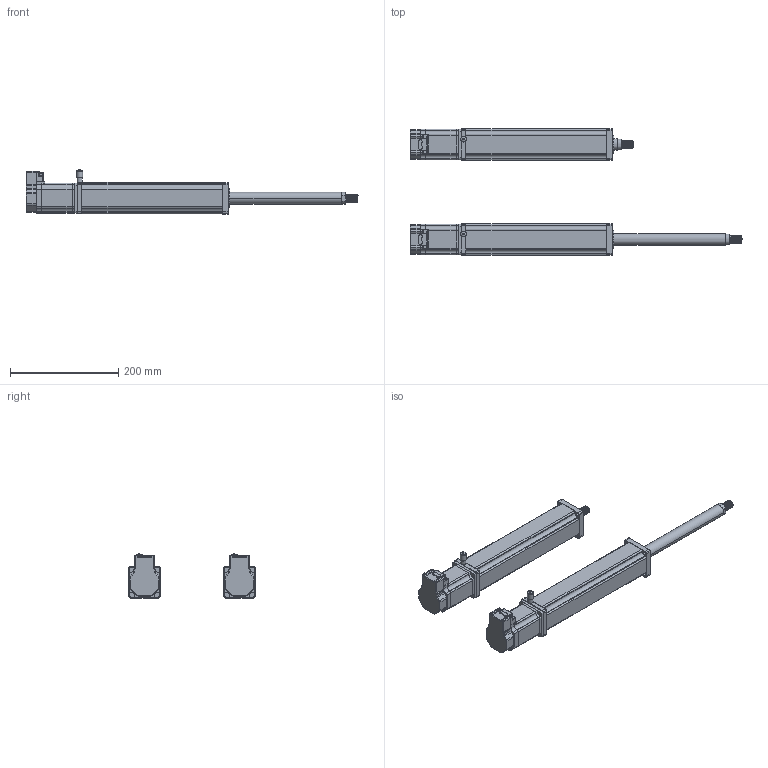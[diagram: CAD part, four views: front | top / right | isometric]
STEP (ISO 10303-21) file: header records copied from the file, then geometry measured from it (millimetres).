
FILE_DESCRIPTION(('FreeCAD Model'),'2;1');
FILE_NAME('Open CASCADE Shape Model','2023-08-04T13:29:37',('Author'),( ''),'Open CASCADE STEP processor 7.5','FreeCAD','Unknown');
FILE_SCHEMA(('AUTOMOTIVE_DESIGN { 1 0 10303 214 1 1 1 1 }'));
Length unit declared in the file: millimetre
Products named in the file (47): Unnamed; Shapes; Shapes001; Shapes002; Shapes003; Shapes004; Shapes005; Shapes006; Shapes007; Shapes008; Shapes009; Shapes010; Shapes011; Shapes012; Shapes013; Shapes014; Shapes015; Shapes016; Shapes017; Shapes018; Shapes019; Shapes020; Shapes021; Shapes022; Shapes023; Shapes024; Shapes025; Shapes026; Shapes027; Shapes028; Shapes029; Shapes030; Shapes031; Shapes032; Shapes033; Shapes034; Shapes035; Shapes036; Shapes037; Shapes038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
Assembly tree (46 placements, depth 2):
  Unnamed
    Shapes
    Shapes001
    Shapes002
    Shapes003
    Shapes004
    Shapes005
    Shapes006
    Shapes007
    Shapes008
    Shapes009
    Shapes010
    Shapes011
    Shapes012
    Shapes013
    Shapes014
    Shapes015
    Shapes016
    Shapes017
    Shapes018
    Shapes019
    Shapes020
    Shapes021
    Shapes022
    Shapes023
    Shapes024
    Shapes025
    Shapes026
    Shapes027
    Shapes028
    Shapes029
    Shapes030
    Shapes031
    Shapes032
    Shapes033
    Shapes034
    Shapes035
    Shapes036
    Shapes037
    Shapes038
    Shapes039
    Shapes040
    Shapes041
    Shapes042
    Shapes043
    AN10-01
    AN10-002
Bounding box: 612.5 x 233.23 x 81.34 mm (x, y, z)
Volume: 2328903.8 mm3; surface area: 302074.1 mm2
Topology: 46 solids, 46 shells, 1358 faces, 3600 edges, 2342 vertices
Faces by surface type: plane 770, cylinder 476, bspline 60, torus 38, sphere 10, cone 4
Full cylindrical faces by diameter (mm): 6 x2, 9.728 x2, 11 x2
Entity records: 146451 total; most frequent: CARTESIAN_POINT 73957, DIRECTION 13358, LINE 8408, VECTOR 8408, ORIENTED_EDGE 7168, PCURVE 7168, DEFINITIONAL_REPRESENTATION 7168, EDGE_CURVE 3584
